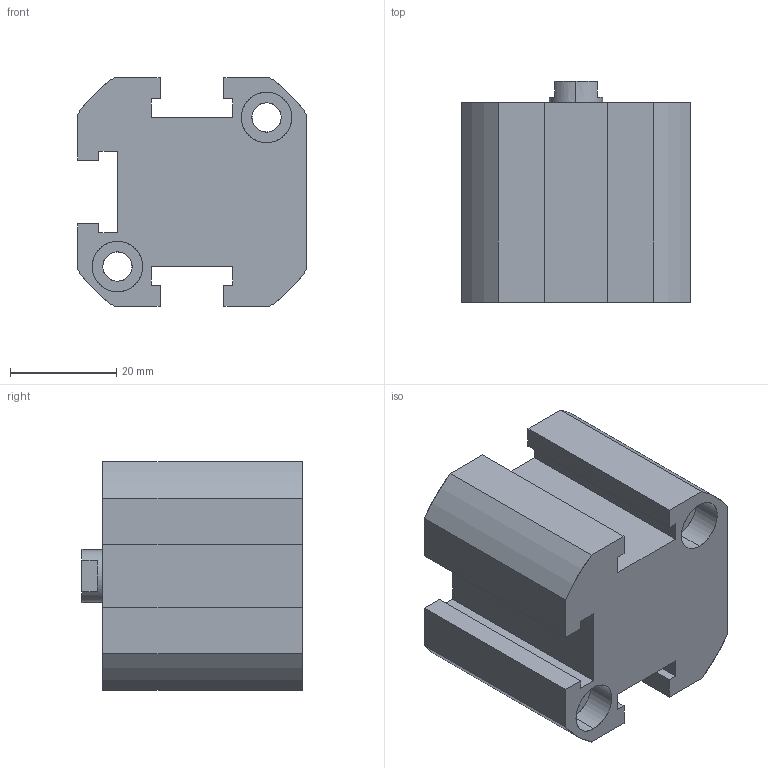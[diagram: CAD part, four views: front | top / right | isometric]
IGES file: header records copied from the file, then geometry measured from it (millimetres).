
Start section: SolidWorks IGES file using analytic representation for surfaces
Global section: file name: C:\Users\Toshiba\Desktop\XC#2-25D-10.IGS; native system: SolidWorks 2014; preprocessor: SolidWorks 2014; author: Toshiba; date: 160523.160737; units: millimetre
Bounding box: 43 x 41.5 x 43 mm (x, y, z)
Surface area: 13681.8 mm2 (no closed solid volume)
Topology: 0 solids, 0 shells, 92 faces, 1306 edges, 1300 vertices
Faces by surface type: revolution 48, bspline 44
